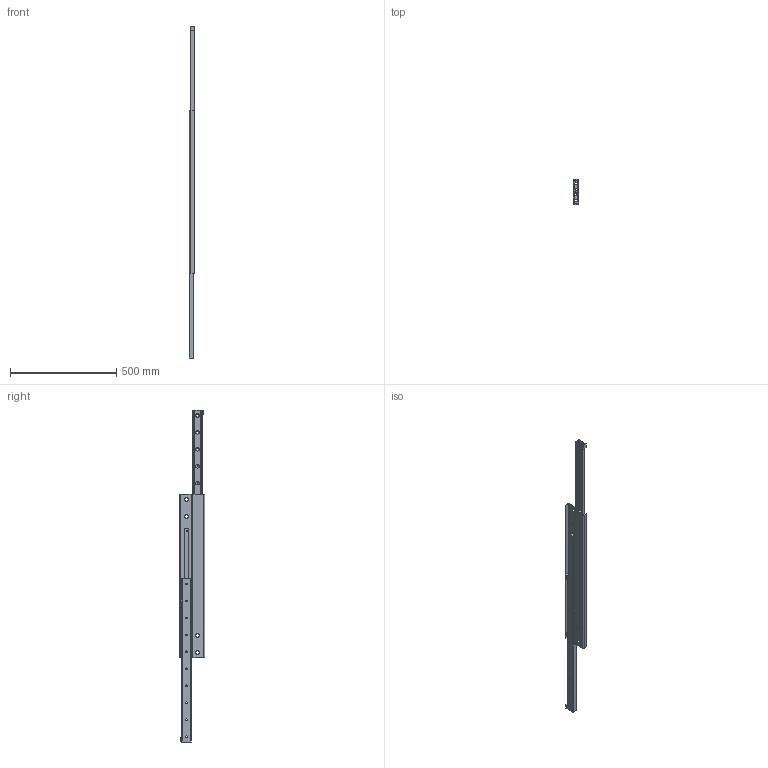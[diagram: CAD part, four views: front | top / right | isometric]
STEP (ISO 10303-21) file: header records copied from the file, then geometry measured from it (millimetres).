
FILE_DESCRIPTION(('STEP AP214'),'1');
FILE_NAME('rail_dss43-770_01.stp','2017-04-17T04:00:20',('TraceParts'),('TraceParts S.A.'),'Spatial InterOp 3D',' ',' ');
FILE_SCHEMA(('automotive_design'));
Length unit declared in the file: millimetre
Products named in the file (3): rail_dss43-770_01_1; rail_dss43-770_01_2; rail_dss43-770_01_3
Bounding box: 28 x 120 x 1566 mm (x, y, z)
Volume: 1392149.2 mm3; surface area: 555656.5 mm2
Topology: 3 solids, 3 shells, 278 faces, 746 edges, 484 vertices
Faces by surface type: plane 138, cylinder 100, cone 40
Entity records: 8847 total; most frequent: DIRECTION 1564, CARTESIAN_POINT 1511, ORIENTED_EDGE 1492, EDGE_CURVE 746, AXIS2_PLACEMENT_3D 537, LINE 490, VECTOR 490, VERTEX_POINT 484
